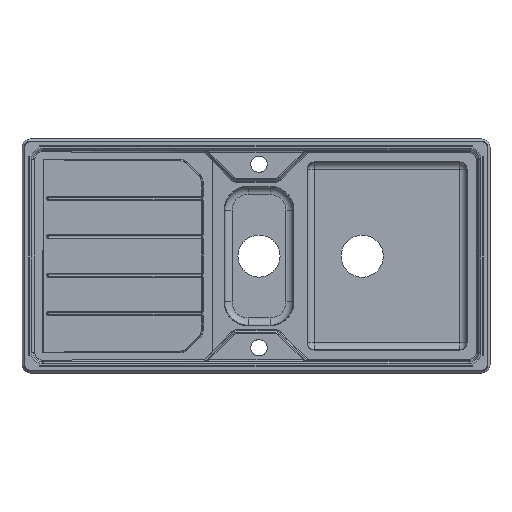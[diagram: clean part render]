
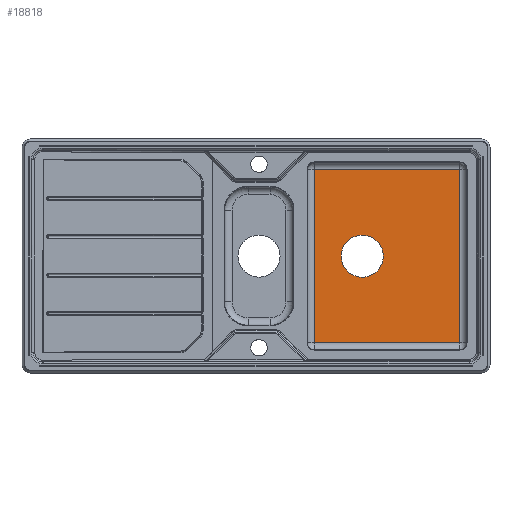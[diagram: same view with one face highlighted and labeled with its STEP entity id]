
A CAD part, top view. The second image highlights one B-rep face of the part: STEP entity #18818.
In plain terms, the highlighted planar face has unit normal (0, 0, 1).
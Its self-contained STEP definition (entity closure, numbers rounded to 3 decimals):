
#18736=CARTESIAN_POINT('Vertex',(182.,0.,-198.)) ;
#18739=CARTESIAN_POINT('Axis2P3D Location',(227.,0.,-198.)) ;
#18743=CARTESIAN_POINT('Vertex',(272.,0.,-198.)) ;
#18763=CARTESIAN_POINT('Axis2P3D Location',(227.,0.,-198.)) ;
#18775=CARTESIAN_POINT('Axis2P3D Location',(280.,0.,-198.)) ;
#18780=CARTESIAN_POINT('Line Origine',(280.,-185.,-198.)) ;
#18784=CARTESIAN_POINT('Vertex',(435.,-185.,-198.)) ;
#18786=CARTESIAN_POINT('Vertex',(125.,-185.,-198.)) ;
#18789=CARTESIAN_POINT('Line Origine',(435.,0.,-198.)) ;
#18793=CARTESIAN_POINT('Vertex',(435.,185.,-198.)) ;
#18796=CARTESIAN_POINT('Line Origine',(280.,185.,-198.)) ;
#18800=CARTESIAN_POINT('Vertex',(125.,185.,-198.)) ;
#18803=CARTESIAN_POINT('Line Origine',(125.,0.,-198.)) ;
#18740=DIRECTION('Axis2P3D Direction',(0.,0.,1.)) ;
#18764=DIRECTION('Axis2P3D Direction',(0.,0.,1.)) ;
#18776=DIRECTION('Axis2P3D Direction',(0.,0.,1.)) ;
#18777=DIRECTION('Axis2P3D XDirection',(1.,0.,0.)) ;
#18781=DIRECTION('Vector Direction',(1.,0.,0.)) ;
#18790=DIRECTION('Vector Direction',(0.,1.,0.)) ;
#18797=DIRECTION('Vector Direction',(1.,0.,0.)) ;
#18804=DIRECTION('Vector Direction',(0.,1.,0.)) ;
#18741=AXIS2_PLACEMENT_3D('Circle Axis2P3D',#18739,#18740,$) ;
#18765=AXIS2_PLACEMENT_3D('Circle Axis2P3D',#18763,#18764,$) ;
#18778=AXIS2_PLACEMENT_3D('Plane Axis2P3D',#18775,#18776,#18777) ;
#18809=ORIENTED_EDGE('',*,*,#18788,.F.) ;
#18810=ORIENTED_EDGE('',*,*,#18795,.F.) ;
#18811=ORIENTED_EDGE('',*,*,#18802,.F.) ;
#18812=ORIENTED_EDGE('',*,*,#18807,.F.) ;
#18815=ORIENTED_EDGE('',*,*,#18767,.F.) ;
#18816=ORIENTED_EDGE('',*,*,#18745,.F.) ;
#18817=FACE_BOUND('',#18814,.T.) ;
#18782=VECTOR('Line Direction',#18781,1.) ;
#18791=VECTOR('Line Direction',#18790,1.) ;
#18798=VECTOR('Line Direction',#18797,1.) ;
#18805=VECTOR('Line Direction',#18804,1.) ;
#18818=ADVANCED_FACE('Vasca',(#18813,#18817),#18779,.T.) ;
#18742=CIRCLE('generated circle',#18741,45.) ;
#18766=CIRCLE('generated circle',#18765,45.) ;
#18745=EDGE_CURVE('',#18737,#18744,#18742,.T.) ;
#18767=EDGE_CURVE('',#18744,#18737,#18766,.T.) ;
#18788=EDGE_CURVE('',#18785,#18787,#18783,.F.) ;
#18795=EDGE_CURVE('',#18794,#18785,#18792,.F.) ;
#18802=EDGE_CURVE('',#18801,#18794,#18799,.T.) ;
#18807=EDGE_CURVE('',#18787,#18801,#18806,.T.) ;
#18808=EDGE_LOOP('',(#18809,#18810,#18811,#18812)) ;
#18814=EDGE_LOOP('',(#18815,#18816)) ;
#18813=FACE_OUTER_BOUND('',#18808,.T.) ;
#18783=LINE('Line',#18780,#18782) ;
#18792=LINE('Line',#18789,#18791) ;
#18799=LINE('Line',#18796,#18798) ;
#18806=LINE('Line',#18803,#18805) ;
#18779=PLANE('',#18778) ;
#18737=VERTEX_POINT('',#18736) ;
#18744=VERTEX_POINT('',#18743) ;
#18785=VERTEX_POINT('',#18784) ;
#18787=VERTEX_POINT('',#18786) ;
#18794=VERTEX_POINT('',#18793) ;
#18801=VERTEX_POINT('',#18800) ;
